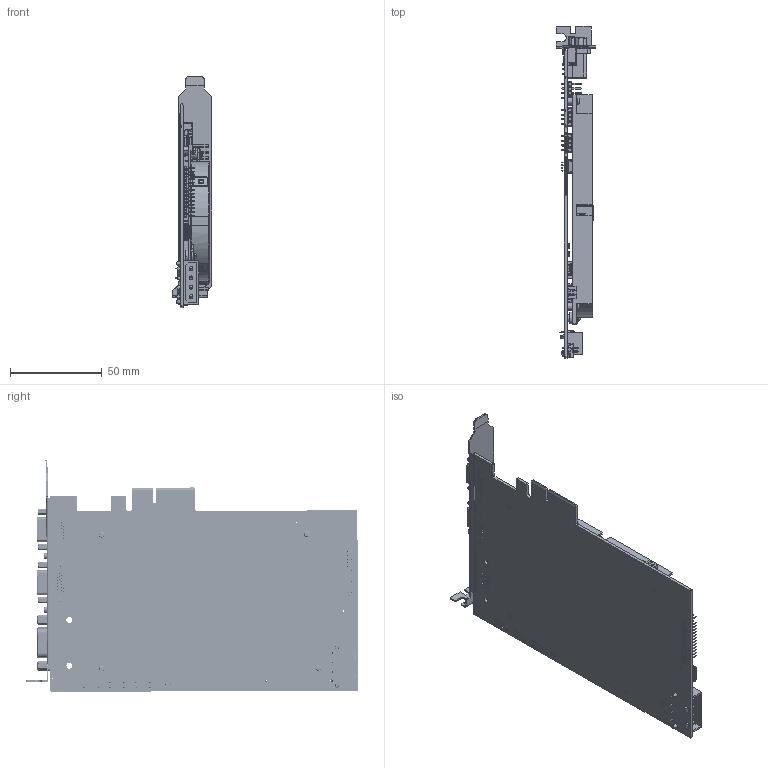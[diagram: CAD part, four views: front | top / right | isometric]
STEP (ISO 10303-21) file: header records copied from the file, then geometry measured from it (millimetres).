
FILE_DESCRIPTION((''),'2;1');
FILE_NAME('MV-20451-REV10_ASM','2023-11-07T20:50:38',('huguozhe'),(''),'CREO PARAMETRIC BY PTC INC, 2020044','CREO PARAMETRIC BY PTC INC, 2020044','');
FILE_SCHEMA(('AUTOMOTIVE_DESIGN { 1 0 10303 214 1 1 1 1 }'));
Products named in the file (31): MV-20451-REV10; 101300388; 101400273; 101301392; ST-D4X3D3X1_4-F2X3-CU-SMT; 100600542; 101305038; 101301447; 101303165; 101305707; 100600291; 101300052; 101301214; 101305001; SVA2000CML-HEAT-SINK; 8002-CLS-M2-0_1; SVA2000CML_HEAT_SINK_ASM; 101800774_1_1_2_1; 101800774_1_1_2_2; 101800774_1_1_2_3; 101800774_1_1_2_4; 101800774_1_1_2_5; 101800774_1_1_2_6_AF0; 101800774_1_1_2_AF0_ASM_1_ASM; ASM0003_AF0_ASM_1_ASM; SVA2000CML-HEAT_SINK-ASM_ASM; SC-TWM2X4; DE-11-054081; DE-12-001475; DE-14-028342; MV-20451-REV10_ASM
Assembly tree (49 placements, depth 5):
  MV-20451-REV10_ASM
    MV-20451-REV10
    101300388
    101400273  x2
    101301392
    ST-D4X3D3X1_4-F2X3-CU-SMT  x4
    100600542
    101305038
    101301447
    101303165  x3
    101305707  x2
    100600291  x4
    101300052
    101301214
    101305001
    SVA2000CML-HEAT_SINK-ASM_ASM
      SVA2000CML_HEAT_SINK_ASM
        SVA2000CML-HEAT-SINK
        8002-CLS-M2-0_1
      ASM0003_AF0_ASM_1_ASM
        101800774_1_1_2_AF0_ASM_1_ASM
          101800774_1_1_2_1
          101800774_1_1_2_2
          101800774_1_1_2_3
          101800774_1_1_2_4
          101800774_1_1_2_5
          101800774_1_1_2_6_AF0
    SC-TWM2X4  x6
    DE-11-054081
    DE-12-001475  x2
    DE-14-028342  x4
Bounding box: 21.59 x 181 x 126.3 mm (x, y, z)
Volume: 67235.6 mm3; surface area: 122933.1 mm2
Topology: 58 solids, 118 shells, 9188 faces, 24776 edges, 15959 vertices
Faces by surface type: plane 6673, cylinder 1991, cone 246, torus 175, bspline 81, sphere 14, revolution 8
Entity records: 241471 total; most frequent: CARTESIAN_POINT 41679, ORIENTED_EDGE 35669, DIRECTION 33913, EDGE_CURVE 17882, VECTOR 13790, LINE 13790, VERTEX_POINT 11576, AXIS2_PLACEMENT_3D 10059
